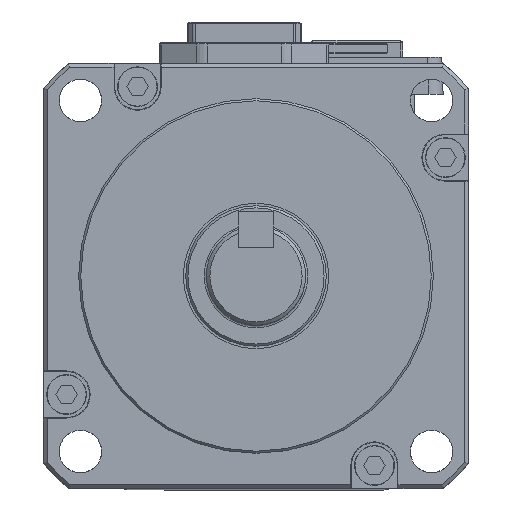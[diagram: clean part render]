
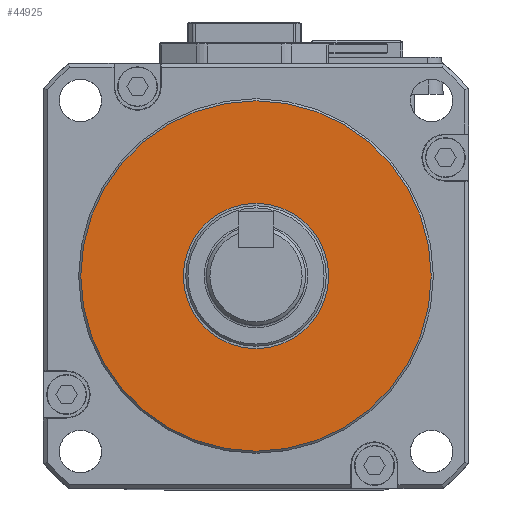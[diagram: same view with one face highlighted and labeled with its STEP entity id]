
A CAD part, top view. The second image highlights one B-rep face of the part: STEP entity #44925.
In plain terms, the highlighted planar face has unit normal (0, 0, 1).
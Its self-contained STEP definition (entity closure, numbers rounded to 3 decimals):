
#8804 = DIRECTION ( 'NONE',  ( 1., 0., 0. ) ) ;
#10291 = AXIS2_PLACEMENT_3D ( 'NONE', #25727, #51680, #8804 ) ;
#11325 = CARTESIAN_POINT ( 'NONE',  ( 0., 0., 10. ) ) ;
#16385 = CARTESIAN_POINT ( 'NONE',  ( 24.7, 0., 10. ) ) ;
#18291 = PLANE ( 'NONE',  #10291 ) ;
#21499 = VERTEX_POINT ( 'NONE', #59492 ) ;
#22359 = VERTEX_POINT ( 'NONE', #16385 ) ;
#23757 = DIRECTION ( 'NONE',  ( 0., 0., 1. ) ) ;
#23770 = ORIENTED_EDGE ( 'NONE', *, *, #65244, .T. ) ;
#25727 = CARTESIAN_POINT ( 'NONE',  ( 0., 0., 10. ) ) ;
#31947 = EDGE_CURVE ( 'NONE', #21499, #21499, #61076, .T. ) ;
#32907 = DIRECTION ( 'NONE',  ( 0., 0., 1. ) ) ;
#35100 = AXIS2_PLACEMENT_3D ( 'NONE', #11325, #32907, #55557 ) ;
#44925 = ADVANCED_FACE ( 'NONE', ( #55239, #66830 ), #18291, .T. ) ;
#45344 = CIRCLE ( 'NONE', #54366, 24.7 ) ;
#50098 = EDGE_LOOP ( 'NONE', ( #23770 ) ) ;
#51680 = DIRECTION ( 'NONE',  ( 0., 0., 1. ) ) ;
#54366 = AXIS2_PLACEMENT_3D ( 'NONE', #56129, #23757, #66994 ) ;
#55239 = FACE_OUTER_BOUND ( 'NONE', #50098, .T. ) ;
#55557 = DIRECTION ( 'NONE',  ( 1., 0., 0. ) ) ;
#56129 = CARTESIAN_POINT ( 'NONE',  ( 0., 0., 10. ) ) ;
#56728 = ORIENTED_EDGE ( 'NONE', *, *, #31947, .F. ) ;
#59492 = CARTESIAN_POINT ( 'NONE',  ( 10.25, 0., 10. ) ) ;
#60994 = EDGE_LOOP ( 'NONE', ( #56728 ) ) ;
#61076 = CIRCLE ( 'NONE', #35100, 10.25 ) ;
#65244 = EDGE_CURVE ( 'NONE', #22359, #22359, #45344, .T. ) ;
#66830 = FACE_BOUND ( 'NONE', #60994, .T. ) ;
#66994 = DIRECTION ( 'NONE',  ( 1., 0., 0. ) ) ;
